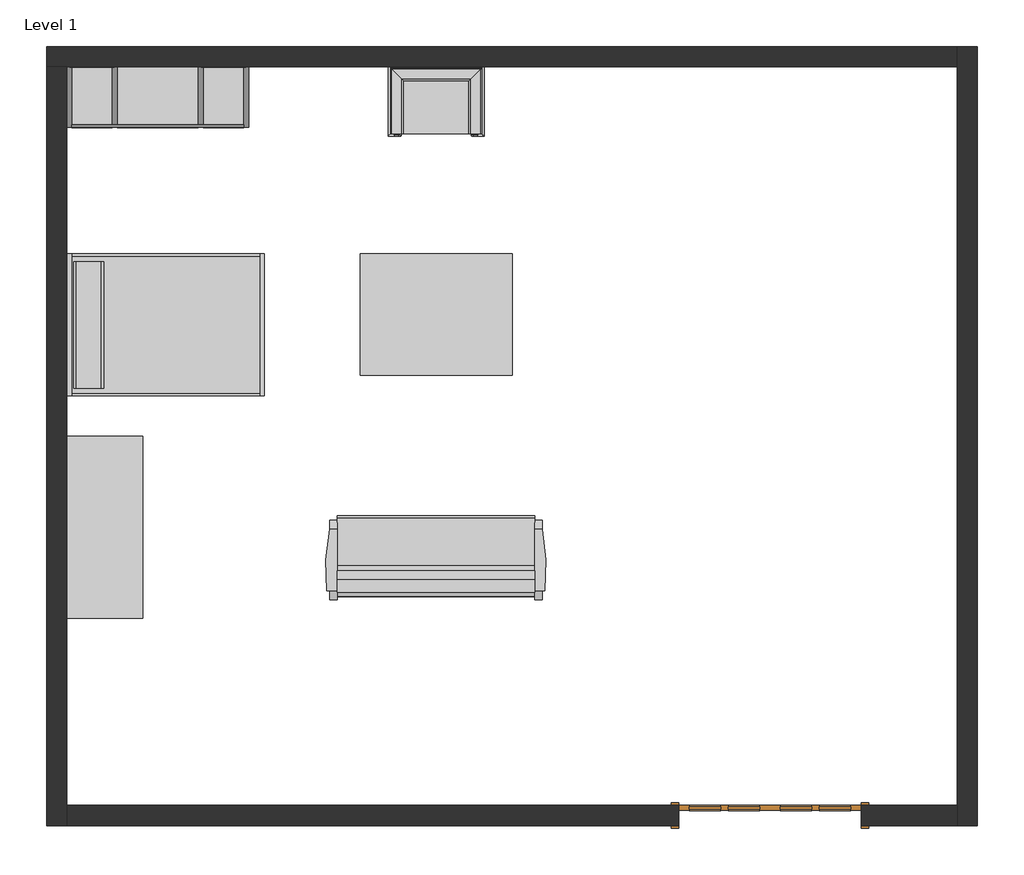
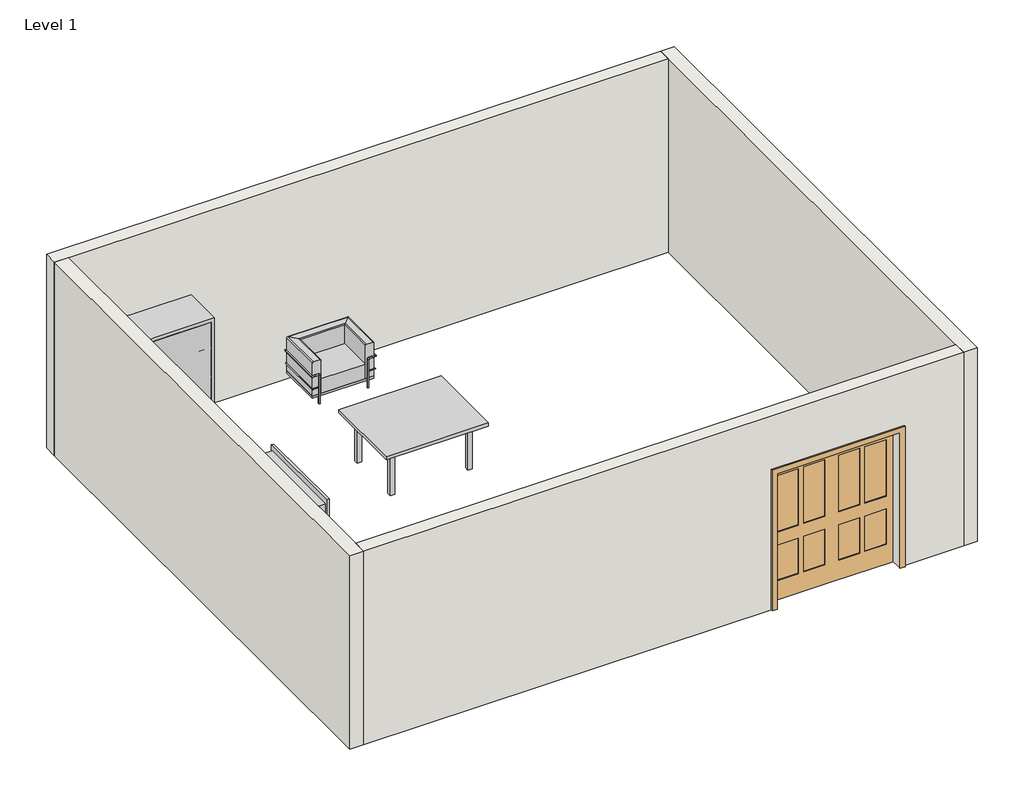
# One storey: 6 furniture elements, 4 walls, 1 door.
"""IFC4 building model written with IfcOpenShell, lengths in millimetres."""

from ifc_helpers import new_model, si_unit, frame, origin, place, context, project, spatial, polyline, outline, extrude, faceted_brep, transform, mapped, element, save
from components import door_0b6942a3, furniture_096e7f55, chair_corbu_chair_corbu_2764bdef, furniture_328d9d47, furniture_fb1f61f5, furniture_c94d3e50, furniture_a5b052b6

model = new_model("IFC4")

# Units and contexts
model_context = context("Model", 3, world=origin())
ifc_project = project(units=[si_unit("LENGTHUNIT", "METRE", prefix="MILLI")], contexts=[model_context])

# Site, building, storey
site = spatial("IfcSite", under=ifc_project)
building = spatial("IfcBuilding", under=site)
storey = spatial("IfcBuildingStorey", under=building, Name="Level 1", Elevation=0.0)

# Door
placement = place(None, origin())
door_shape = door_0b6942a3(model_context)
element("IfcDoor", 1, ObjectType="Double-Panel 2 : 72\" x 84\"", at=placement, inside=storey, context=model_context, shape_type="MappedRepresentation", body=[
    mapped(door_shape, transform((-4696.7815431, 1652.513038, 0.0), x_axis=(1.0, 0.0, 0.0), y_axis=(0.0, 1.0, 0.0), z_axis=(0.0, 0.0, 1.0))),
])

# Furniture
furniture_shape = furniture_096e7f55(model_context)
element("IfcFurniture", 2, ObjectType="Bed-Shaker : Double 56\" x 78\"", at=placement, inside=storey, context=model_context, shape_type="MappedRepresentation", body=[
    mapped(furniture_shape, transform((-11757.9815431, 6599.163038, 0.0), x_axis=(0.0, 1.0, 0.0), y_axis=(-1.0, 0.0, 0.0), z_axis=(0.0, 0.0, 1.0))),
])
chair_corbu_chair_corbu_shape = chair_corbu_chair_corbu_2764bdef(model_context)
element("IfcFurniture", 3, ObjectType="Chair-Corbu : Chair-Corbu", at=placement, inside=storey, context=model_context, shape_type="MappedRepresentation", body=[
    mapped(chair_corbu_chair_corbu_shape, transform((-8622.9553136, 8361.2359888, 0.0), x_axis=(1.0, 0.0, 0.0), y_axis=(0.0, 1.0, 0.0), z_axis=(0.0, 0.0, 1.0))),
])
furniture_2_shape = furniture_328d9d47(model_context)
element("IfcFurniture", 4, ObjectType="Entertainment Center : 72\" x 72\" x 24\"", at=placement, inside=storey, context=model_context, shape_type="MappedRepresentation", body=[
    mapped(furniture_2_shape, transform((-10843.5815431, 8459.713038, 0.0), x_axis=(1.0, 0.0, 0.0), y_axis=(0.0, 1.0, 0.0), z_axis=(0.0, 0.0, 1.0))),
])
furniture_3_shape = furniture_fb1f61f5(model_context)
element("IfcFurniture", 5, ObjectType="Sofa-Pensi : 84\"", at=placement, inside=storey, context=model_context, shape_type="MappedRepresentation", body=[
    mapped(furniture_3_shape, transform((-7770.9752931, 4520.4228741, 0.0), x_axis=(-1.0, 0.0, 0.0), y_axis=(0.0, -1.0, 0.0), z_axis=(0.0, 0.0, 1.0))),
])
furniture_4_shape = furniture_c94d3e50(model_context)
element("IfcFurniture", 6, ObjectType="Table-Rectangular : 60\" x 48\"", at=placement, inside=storey, context=model_context, shape_type="MappedRepresentation", body=[
    mapped(furniture_4_shape, transform((-8049.5815431, 6681.713038, 0.0), x_axis=(1.0, 0.0, 0.0), y_axis=(0.0, 1.0, 0.0), z_axis=(0.0, 0.0, 1.0))),
])
furniture_5_shape = furniture_a5b052b6(model_context)
element("IfcFurniture", 7, ObjectType="Table-Rectangular : 72\" x 30\"", at=placement, inside=storey, context=model_context, shape_type="MappedRepresentation", body=[
    mapped(furniture_5_shape, transform((-11376.9815431, 4548.113038, 0.0), x_axis=(0.0, 1.0, 0.0), y_axis=(-1.0, 0.0, 0.0), z_axis=(0.0, 0.0, 1.0))),
])

# Walls
element("IfcWall", 8, ObjectType="Generic - 8\"", at=placement, inside=storey, context=model_context, shape_type="Brep", body=[
    faceted_brep([(-11961.1815431, 9170.913038, 0.0), (-11757.9815431, 9170.913038, 0.0), (-2817.1815431, 9170.913038, 0.0), (-2817.1815431, 9170.913038, 3048.0), (-11757.9815431, 9170.913038, 3048.0), (-11961.1815431, 9170.913038, 3048.0), (-11961.1815431, 9374.113038, 0.0), (-11961.1815431, 9374.113038, 3048.0), (-2817.1815431, 9374.113038, 3048.0), (-2817.1815431, 9374.113038, 0.0)], [[[0, 1, 2, 3, 4, 5]], [[6, 7, 8, 9]], [[2, 1, 0, 6, 9]], [[5, 4, 3, 8, 7]], [[0, 5, 7, 6]], [[3, 2, 9, 8]]]),
])
element("IfcWall", 9, ObjectType="Generic - 8\"", at=placement, inside=storey, context=model_context, shape_type="Brep", body=[
    faceted_brep([(-11757.9815431, 1550.913038, 0.0), (-11757.9815431, 1754.113038, 0.0), (-11757.9815431, 9170.913038, 0.0), (-11757.9815431, 9170.913038, 3048.0), (-11757.9815431, 1754.113038, 3048.0), (-11757.9815431, 1550.913038, 3048.0), (-11961.1815431, 1550.913038, 0.0), (-11961.1815431, 1550.913038, 3048.0), (-11961.1815431, 9170.913038, 3048.0), (-11961.1815431, 9170.913038, 0.0)], [[[0, 1, 2, 3, 4, 5]], [[6, 7, 8, 9]], [[2, 1, 0, 6, 9]], [[5, 4, 3, 8, 7]], [[0, 5, 7, 6]], [[3, 2, 9, 8]]]),
])
element("IfcWall", 10, ObjectType="Generic - 8\"", at=placement, inside=storey, context=model_context, shape_type="SweptSolid", body=[
    extrude(outline(polyline([(2133.6, -3782.3815431), (0.0, -3782.3815431), (0.0, -2817.1815431), (3048.0, -2817.1815431), (3048.0, -11757.9815431), (0.0, -11757.9815431), (0.0, -5611.1815431), (2133.6, -5611.1815431), (2133.6, -3782.3815431)])), frame((0.0, 1550.913038, 0.0), z_axis=(0.0, 1.0, 0.0), x_axis=(0.0, 0.0, 1.0)), (0.0, 0.0, 1.0), 203.2),
])
element("IfcWall", 11, ObjectType="Generic - 8\"", at=placement, inside=storey, context=model_context, shape_type="Brep", body=[
    faceted_brep([(-2817.1815431, 9374.113038, 0.0), (-2817.1815431, 9170.913038, 0.0), (-2817.1815431, 1754.113038, 0.0), (-2817.1815431, 1550.913038, 0.0), (-2817.1815431, 1550.913038, 3048.0), (-2817.1815431, 1754.113038, 3048.0), (-2817.1815431, 9170.913038, 3048.0), (-2817.1815431, 9374.113038, 3048.0), (-2613.9815431, 9374.113038, 0.0), (-2613.9815431, 9374.113038, 3048.0), (-2613.9815431, 1550.913038, 3048.0), (-2613.9815431, 1550.913038, 0.0)], [[[0, 1, 2, 3, 4, 5, 6, 7]], [[8, 9, 10, 11]], [[3, 2, 1, 0, 8, 11]], [[7, 6, 5, 4, 10, 9]], [[0, 7, 9, 8]], [[4, 3, 11, 10]]]),
])

save(model, "model.ifc")
